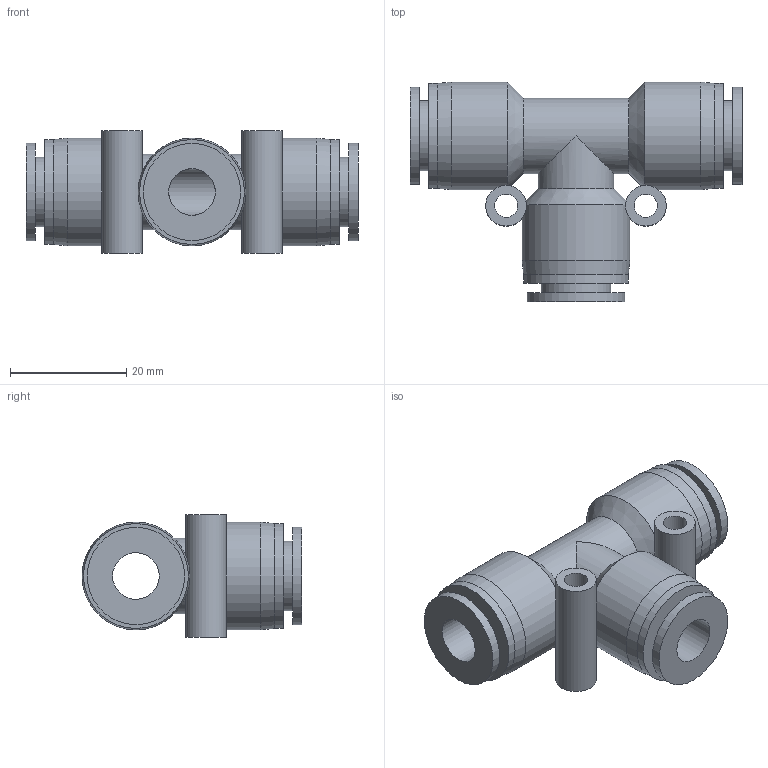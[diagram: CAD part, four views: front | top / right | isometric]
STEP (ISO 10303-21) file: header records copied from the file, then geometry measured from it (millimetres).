
FILE_DESCRIPTION((''),'2;1');
FILE_NAME('S:\UTecnico\ArchivioUT\Speciali Clienti\Speciali KONFIT\Plastica\RP\RP 55\RP551008.stp','2012-05-14T16:10:34',('UT5'),(''),'Autodesk Inventor 2012','Autodesk Inventor 2012','');
FILE_SCHEMA(('AUTOMOTIVE_DESIGN { 1 0 10303 214 1 1 1 1 }'));
Length unit declared in the file: millimetre
Products named in the file (1): RP551008
Bounding box: 57 x 37.75 x 21 mm (x, y, z)
Volume: 13821 mm3; surface area: 8948.5 mm2
Topology: 3 solids, 3 shells, 39 faces, 76 edges, 49 vertices
Faces by surface type: cylinder 20, plane 13, cone 6
Full cylindrical faces by diameter (mm): 4 x2, 7 x2, 8 x2, 12 x3, 13 x2, 16.7 x3, 18 x3, 18.5 x3
Entity records: 902 total; most frequent: DIRECTION 164, CARTESIAN_POINT 124, ORIENTED_EDGE 84, AXIS2_PLACEMENT_3D 82, EDGE_LOOP 80, VERTEX_POINT 42, EDGE_CURVE 42, FACE_BOUND 41
